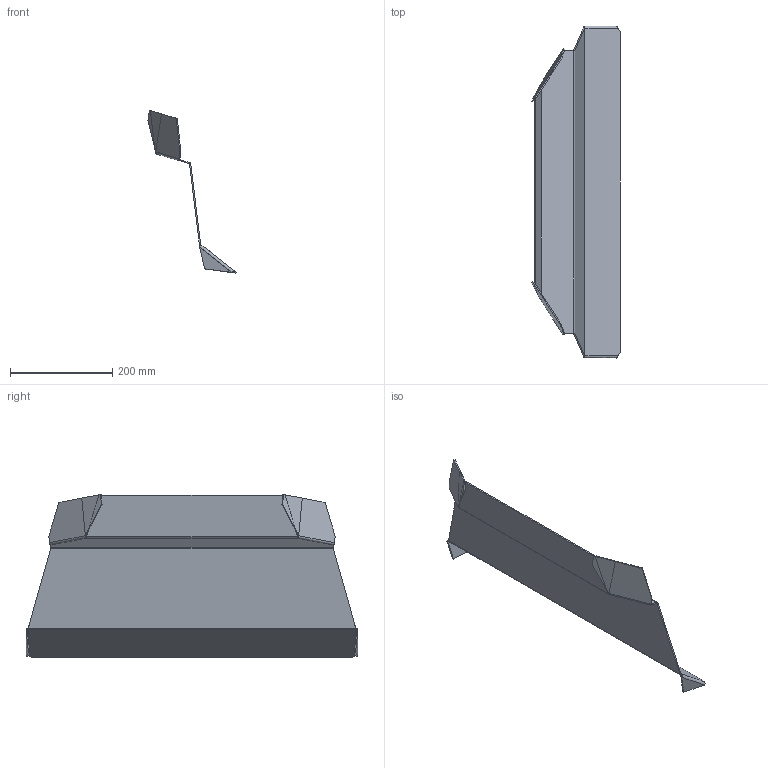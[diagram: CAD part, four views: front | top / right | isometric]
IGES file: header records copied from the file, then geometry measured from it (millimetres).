
Start section: START RECORD GO HERE.
Global section: file name: MS_04001 (Middle part).igs; native system: IBM CATIA IGES - CATIA Version 5 Release 19 ; preprocessor: CATIA Version 5 Release 19 ; author: Pablo Lamadrid; organization: DESKTOP-QLPPBTB; date: 20211019.151559; units: millimetre
Bounding box: 172.77 x 649.73 x 319.2 mm (x, y, z)
Surface area: 481773 mm2 (no closed solid volume)
Topology: 0 solids, 0 shells, 80 faces, 353 edges, 364 vertices
Faces by surface type: plane 62, revolution 16, bspline 2
